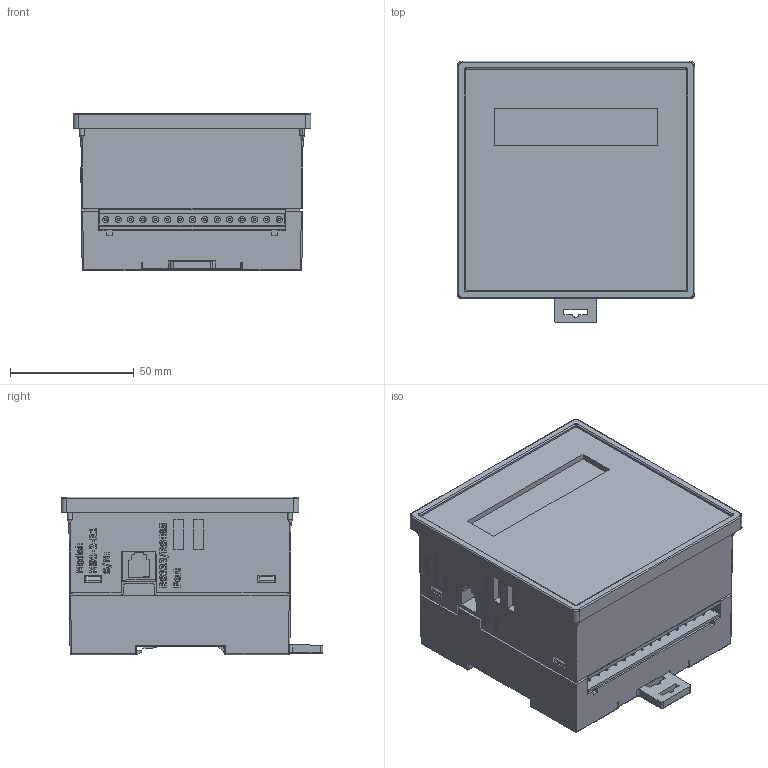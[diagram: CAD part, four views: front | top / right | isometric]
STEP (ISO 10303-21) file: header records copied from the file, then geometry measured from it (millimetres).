
FILE_DESCRIPTION (( 'STEP AP214' ), '1' );
FILE_NAME ('M91.STEP', '2024-04-24T11:32:27', ( '' ), ( '' ), 'SwSTEP 2.0', 'SolidWorks 2022', '' );
FILE_SCHEMA (( 'AUTOMOTIVE_DESIGN' ));
Length unit declared in the file: millimetre
Products named in the file (1): M91
Bounding box: 96 x 105.72 x 63.8 mm (x, y, z)
Volume: 433611.3 mm3; surface area: 93001.4 mm2
Topology: 1 solids, 6 shells, 1652 faces, 4654 edges, 3114 vertices
Faces by surface type: plane 1010, bspline 383, cylinder 239, cone 12, torus 8
Entity records: 68901 total; most frequent: CARTESIAN_POINT 28691, ORIENTED_EDGE 9298, DIRECTION 6492, EDGE_CURVE 4649, VECTOR 3212, LINE 3212, VERTEX_POINT 3114, EDGE_LOOP 1813
